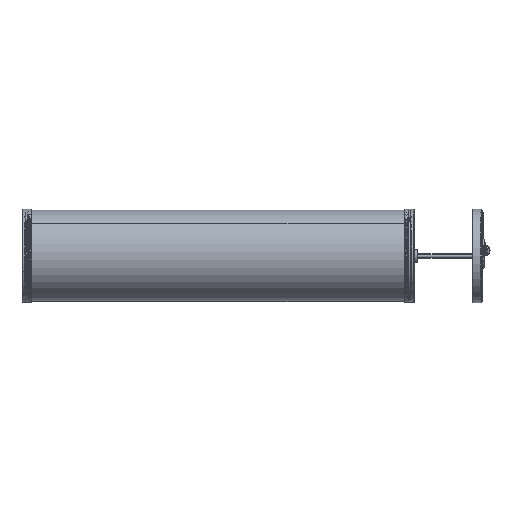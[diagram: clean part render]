
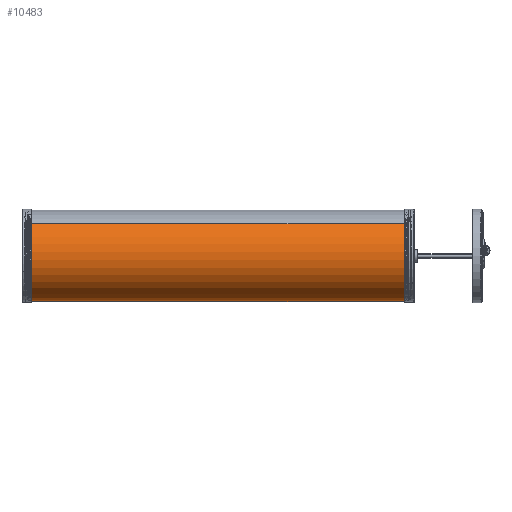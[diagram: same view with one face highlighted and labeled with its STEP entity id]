
A CAD part, left-side view. The second image highlights one B-rep face of the part: STEP entity #10483.
In plain terms, the highlighted cylindrical face has radius 147 mm (diameter 294 mm), a partial arc.
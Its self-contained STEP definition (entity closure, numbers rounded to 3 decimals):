
#2524 = EDGE_LOOP ( 'NONE', ( #47703, #17370, #42239, #62519 ) ) ;
#2817 = DIRECTION ( 'NONE',  ( 0., 1., 0. ) ) ;
#3868 = DIRECTION ( 'NONE',  ( 0., 0., 1. ) ) ;
#4648 = DIRECTION ( 'NONE',  ( 0., 1., 0. ) ) ;
#6389 = VERTEX_POINT ( 'NONE', #58863 ) ;
#6591 = DIRECTION ( 'NONE',  ( 0., 1., 0. ) ) ;
#7386 = DIRECTION ( 'NONE',  ( 0., -1., 0. ) ) ;
#8319 = AXIS2_PLACEMENT_3D ( 'NONE', #53672, #7386, #27962 ) ;
#10483 = ADVANCED_FACE ( 'NONE', ( #15913 ), #65663, .T. ) ;
#14078 = AXIS2_PLACEMENT_3D ( 'NONE', #61022, #4648, #40056 ) ;
#15913 = FACE_OUTER_BOUND ( 'NONE', #2524, .T. ) ;
#17370 = ORIENTED_EDGE ( 'NONE', *, *, #23699, .T. ) ;
#18620 = CARTESIAN_POINT ( 'NONE',  ( 0., -610.5, 147. ) ) ;
#18899 = EDGE_CURVE ( 'NONE', #55481, #6389, #53543, .T. ) ;
#19066 = CARTESIAN_POINT ( 'NONE',  ( 0., 0., 0. ) ) ;
#22732 = CARTESIAN_POINT ( 'NONE',  ( 0., 0., -147. ) ) ;
#23699 = EDGE_CURVE ( 'NONE', #52207, #55481, #43175, .T. ) ;
#26832 = CARTESIAN_POINT ( 'NONE',  ( 0., 0., 147. ) ) ;
#27772 = LINE ( 'NONE', #22732, #52092 ) ;
#27962 = DIRECTION ( 'NONE',  ( 0., 0., 1. ) ) ;
#29179 = DIRECTION ( 'NONE',  ( 0., 1., 0. ) ) ;
#31151 = VECTOR ( 'NONE', #6591, 1000. ) ;
#33700 = EDGE_CURVE ( 'NONE', #6389, #39975, #59040, .T. ) ;
#35996 = AXIS2_PLACEMENT_3D ( 'NONE', #19066, #29179, #3868 ) ;
#36548 = CARTESIAN_POINT ( 'NONE',  ( 0., 610.5, -147. ) ) ;
#39975 = VERTEX_POINT ( 'NONE', #36548 ) ;
#40032 = EDGE_CURVE ( 'NONE', #52207, #39975, #27772, .T. ) ;
#40056 = DIRECTION ( 'NONE',  ( 0., 0., 1. ) ) ;
#42239 = ORIENTED_EDGE ( 'NONE', *, *, #18899, .T. ) ;
#43175 = CIRCLE ( 'NONE', #14078, 147. ) ;
#47703 = ORIENTED_EDGE ( 'NONE', *, *, #40032, .F. ) ;
#49839 = CARTESIAN_POINT ( 'NONE',  ( 0., -610.5, -147. ) ) ;
#52092 = VECTOR ( 'NONE', #2817, 1000. ) ;
#52207 = VERTEX_POINT ( 'NONE', #49839 ) ;
#53543 = LINE ( 'NONE', #26832, #31151 ) ;
#53672 = CARTESIAN_POINT ( 'NONE',  ( 0., 610.5, 0. ) ) ;
#55481 = VERTEX_POINT ( 'NONE', #18620 ) ;
#58863 = CARTESIAN_POINT ( 'NONE',  ( 0., 610.5, 147. ) ) ;
#59040 = CIRCLE ( 'NONE', #8319, 147. ) ;
#61022 = CARTESIAN_POINT ( 'NONE',  ( 0., -610.5, 0. ) ) ;
#62519 = ORIENTED_EDGE ( 'NONE', *, *, #33700, .T. ) ;
#65663 = CYLINDRICAL_SURFACE ( 'NONE', #35996, 147. ) ;
